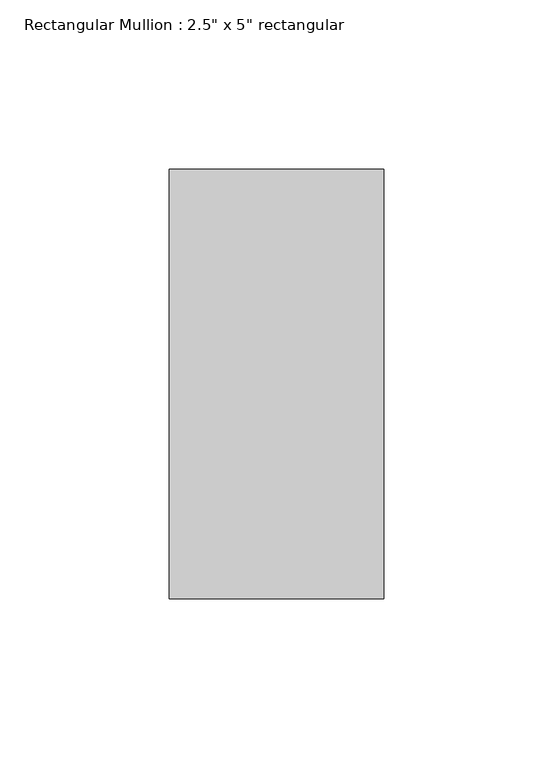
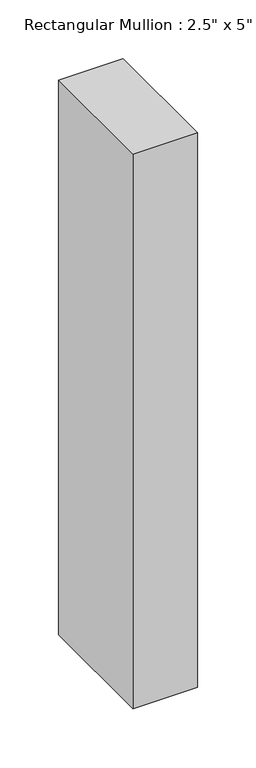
"""IFC4 building model written with IfcOpenShell, lengths in millimetres: member geometry."""

from ifc_helpers import new_model, si_unit, frame, origin, place, context, project, spatial, polyline, outline, extrude, source, transform, mapped, element, save


def member_830eb86c(model_context):
    return source(origin(), model_context, "Body", "SweptSolid", [
        extrude(outline(polyline([(0.0, 63.5), (0.0, -63.5), (-63.5, -63.5), (-63.5, 63.5), (0.0, 63.5)])), frame((0.0, 0.0, -577.85), z_axis=(0.0, 0.0, 1.0), x_axis=(1.0, 0.0, 0.0)), (0.0, 0.0, 1.0), 577.85),
    ])


if __name__ == "__main__":
    model = new_model("IFC4")
    model_context = context("Model", 3, world=origin())
    ifc_project = project(units=[si_unit("LENGTHUNIT", "METRE", prefix="MILLI")], contexts=[model_context])
    site = spatial("IfcSite", under=ifc_project)
    building = spatial("IfcBuilding", under=site)
    placement = place(None, origin())
    member_shape = member_830eb86c(model_context)
    element("IfcMember", 1, ObjectType="Rectangular Mullion : 2.5\" x 5\" rectangular", at=placement, inside=building, context=model_context, shape_type="MappedRepresentation", body=[
        mapped(member_shape, transform((0.0, 0.0, 0.0), x_axis=(1.0, 0.0, 0.0), y_axis=(0.0, 1.0, 0.0), z_axis=(0.0, 0.0, 1.0))),
    ])
    save(model, "model.ifc")
